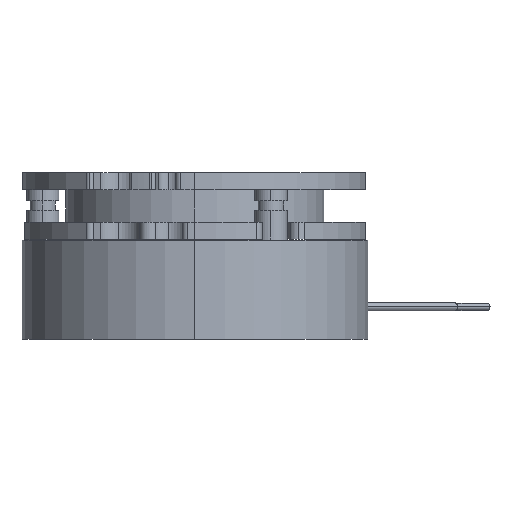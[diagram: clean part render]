
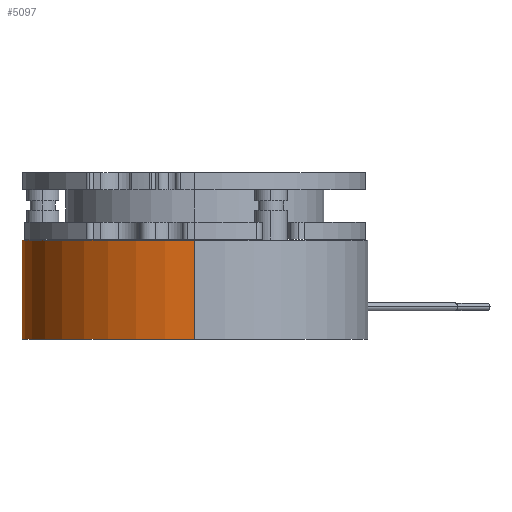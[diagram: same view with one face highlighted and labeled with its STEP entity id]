
A CAD part, left-side view. The second image highlights one B-rep face of the part: STEP entity #5097.
In plain terms, the highlighted cylindrical face has radius 37.5 mm (diameter 75 mm), a partial arc.
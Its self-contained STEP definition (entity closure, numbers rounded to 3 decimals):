
#2003 = DIRECTION ( 'NONE',  ( 0., 0., -1. ) ) ;
#2004 = DIRECTION ( 'NONE',  ( 0., 0., -1. ) ) ;
#2005 = CARTESIAN_POINT ( 'NONE',  ( 37.5, 0., 21.5 ) ) ;
#2006 = CARTESIAN_POINT ( 'NONE',  ( 0., 0., 21.5 ) ) ;
#2007 = DIRECTION ( 'NONE',  ( 0., 0., 1. ) ) ;
#2008 = DIRECTION ( 'NONE',  ( 1., 0., 0. ) ) ;
#2009 = CARTESIAN_POINT ( 'NONE',  ( -37.5, 0., 21.5 ) ) ;
#2010 = CARTESIAN_POINT ( 'NONE',  ( 0., 0., 0. ) ) ;
#2011 = DIRECTION ( 'NONE',  ( 0., 0., 1. ) ) ;
#2012 = DIRECTION ( 'NONE',  ( 1., 0., 0. ) ) ;
#3558 = ORIENTED_EDGE ( 'NONE', *, *, #3669, .F. ) ;
#3559 = ORIENTED_EDGE ( 'NONE', *, *, #3670, .T. ) ;
#3560 = ORIENTED_EDGE ( 'NONE', *, *, #3671, .T. ) ;
#3561 = ORIENTED_EDGE ( 'NONE', *, *, #3672, .F. ) ;
#3669 = EDGE_CURVE ( 'NONE', #6048, #6049, #4923, .T. ) ;
#3670 = EDGE_CURVE ( 'NONE', #6048, #6054, #4926, .T. ) ;
#3671 = EDGE_CURVE ( 'NONE', #6054, #6055, #4928, .T. ) ;
#3672 = EDGE_CURVE ( 'NONE', #6049, #6055, #4931, .T. ) ;
#4049 = FACE_OUTER_BOUND ( 'NONE', #10920, .T. ) ;
#4057 = CYLINDRICAL_SURFACE ( 'NONE', #11973, 37.5 ) ;
#4923 = CIRCLE ( 'NONE', #11704, 37.5 ) ;
#4926 = LINE ( 'NONE', #2005, #4930 ) ;
#4928 = CIRCLE ( 'NONE', #11705, 37.5 ) ;
#4930 = VECTOR ( 'NONE', #2003, 1000. ) ;
#4931 = LINE ( 'NONE', #2009, #4933 ) ;
#4933 = VECTOR ( 'NONE', #2004, 1000. ) ;
#5097 = ADVANCED_FACE ( 'NONE', ( #4049 ), #4057, .T. ) ;
#6048 = VERTEX_POINT ( 'NONE', #13441 ) ;
#6049 = VERTEX_POINT ( 'NONE', #13442 ) ;
#6054 = VERTEX_POINT ( 'NONE', #13447 ) ;
#6055 = VERTEX_POINT ( 'NONE', #13448 ) ;
#9601 = CARTESIAN_POINT ( 'NONE',  ( 0., 0., 21.5 ) ) ;
#9602 = DIRECTION ( 'NONE',  ( 0., 0., -1. ) ) ;
#9610 = DIRECTION ( 'NONE',  ( -1., 0., 0. ) ) ;
#10920 = EDGE_LOOP ( 'NONE', ( #3558, #3559, #3560, #3561 ) ) ;
#11704 = AXIS2_PLACEMENT_3D ( 'NONE', #2006, #2007, #2008 ) ;
#11705 = AXIS2_PLACEMENT_3D ( 'NONE', #2010, #2011, #2012 ) ;
#11973 = AXIS2_PLACEMENT_3D ( 'NONE', #9601, #9602, #9610 ) ;
#13441 = CARTESIAN_POINT ( 'NONE',  ( 37.5, 0., 21.5 ) ) ;
#13442 = CARTESIAN_POINT ( 'NONE',  ( -37.5, 0., 21.5 ) ) ;
#13447 = CARTESIAN_POINT ( 'NONE',  ( 37.5, 0., 0. ) ) ;
#13448 = CARTESIAN_POINT ( 'NONE',  ( -37.5, 0., 0. ) ) ;
